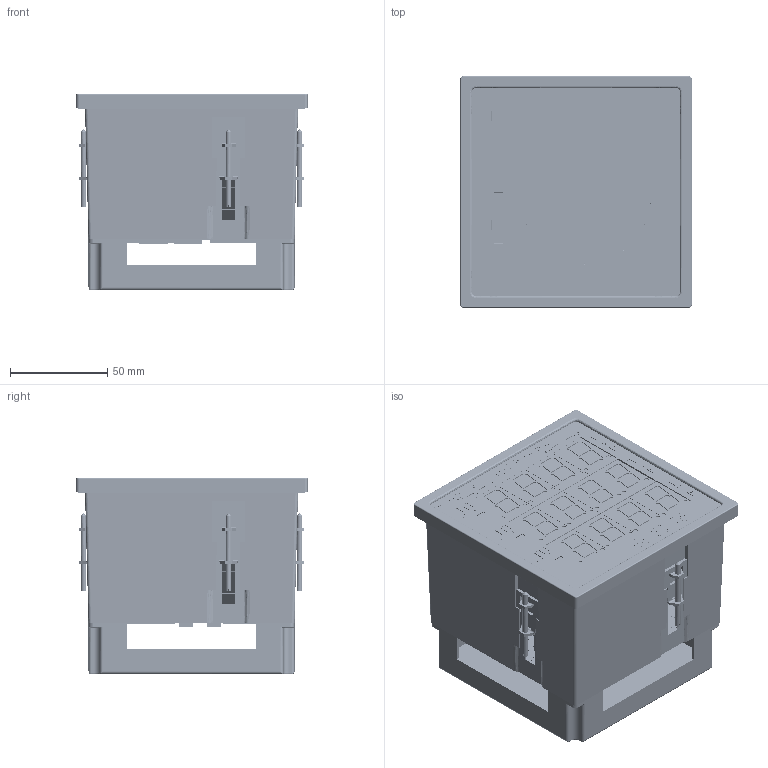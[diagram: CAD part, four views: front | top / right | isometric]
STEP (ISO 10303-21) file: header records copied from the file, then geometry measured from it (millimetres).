
FILE_DESCRIPTION (( 'STEP AP214' ), '1' );
FILE_NAME ('ñ9255tr_3n_120x120x103.STEP', '2025-01-17T09:30:29', ( '' ), ( '' ), 'SwSTEP 2.0', 'SolidWorks 2021', '' );
FILE_SCHEMA (( 'AUTOMOTIVE_DESIGN' ));
Length unit declared in the file: millimetre
Products named in the file (67): Êîïèÿ mark-FYS-8011^Êîïèÿ (2) Êîïèÿ indicator-FYS-8011_sborka-c9255tr-3n_step; 3-input-label^sborka-c9255tr-3n_step; Êîïèÿ Êîïèÿ ïåðåäíÿÿ_ïàíåëü^sborka-c9255tr-3n_step; ñêîáà-1_step; blue-led-5_step; 15EDGRC-3.5-06P; DG271R-5.0-2-x; Êîïèÿ mark-FYS-8011^Êîïèÿ (6) Êîïèÿ indicator-FYS-8011_sborka-c9255tr-3n_step; indicator-FYS-8011; Ñêîáà ÖÔ9285; Êîïèÿ mark-FYS-8011^Êîïèÿ (9) Êîïèÿ indicator-FYS-8011_sborka-c9255tr-3n_step; Êîïèÿ Êîïèÿ indicator-FYS-8011^sborka-c9255tr-3n_step; Êîïèÿ mark-FYS-8011^Êîïèÿ (10) Êîïèÿ indicator-FYS-8011_sborka-c9255tr-3n_step; Êîïèÿ mark-FYS-8011^Êîïèÿ (12) Êîïèÿ indicator-FYS-8011_sborka-c9255tr-3n_step; 櫻蠉錪2^DG271R-5.0-6-x; DG271R-body_step; Çàäíÿÿ êðûøêà ÖÔ9285; green-led-5_step; Êîïèÿ 15EDGRC-3.5-01P^15EDGRC-3.5-04P; Êîïèÿ (11) Êîïèÿ indicator-FYS-8011^sborka-c9255tr-3n_step; Êîïèÿ Ñáîðêà ñêîáà ÖÔ9285^sborka-c9255tr-3n_step; main-upper-label^sborka-c9255tr-3n_step; Êîïèÿ mark-FYS-8011^Êîïèÿ (5) Êîïèÿ indicator-FYS-8011_sborka-c9255tr-3n_step; 櫻蠉錪5^DG271R-5.0-2-x; Êîïèÿ (10) Êîïèÿ indicator-FYS-8011^sborka-c9255tr-3n_step; RS-485-label^sborka-c9255tr-3n_step; 15EDGRC-3.5-01P; Êîïèÿ orange-led-with-border^sborka-c9255tr-3n_step; ñ9255tr_3n_120x120x103; 15EDGRC-3.5-04P; Êîïèÿ (9) Êîïèÿ indicator-FYS-8011^sborka-c9255tr-3n_step; 櫻蠉錪5^DG271R-5.0-6-x_step; Êîïèÿ (4) Êîïèÿ indicator-FYS-8011^sborka-c9255tr-3n_step; Êîïèÿ mark-FYS-8011^Êîïèÿ (3) Êîïèÿ indicator-FYS-8011_sborka-c9255tr-3n_step; Êîïèÿ green-led-with-border^sborka-c9255tr-3n_step; Êîïèÿ (12) Êîïèÿ indicator-FYS-8011^sborka-c9255tr-3n_step; Êîïèÿ (3) Êîïèÿ indicator-FYS-8011^sborka-c9255tr-3n_step; DG271R-5.0-6-x_step; Êîïèÿ (8) Êîïèÿ indicator-FYS-8011^sborka-c9255tr-3n_step; 櫻蠉錪6^DG271R-5.0-2-x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
Assembly tree (122 placements, depth 3):
  Êîïèÿ mark-FYS-8011^Êîïèÿ (2) Êîïèÿ indicator-FYS-8011_sborka-c9255tr-3n_step
  Êîïèÿ mark-FYS-8011^Êîïèÿ (6) Êîïèÿ indicator-FYS-8011_sborka-c9255tr-3n_step
  Êîïèÿ mark-FYS-8011^Êîïèÿ (9) Êîïèÿ indicator-FYS-8011_sborka-c9255tr-3n_step
  Êîïèÿ mark-FYS-8011^Êîïèÿ (10) Êîïèÿ indicator-FYS-8011_sborka-c9255tr-3n_step
  Êîïèÿ mark-FYS-8011^Êîïèÿ (12) Êîïèÿ indicator-FYS-8011_sborka-c9255tr-3n_step
Bounding box: 119 x 119 x 101.11 mm (x, y, z)
Volume: 196775.9 mm3; surface area: 226512.7 mm2
Topology: 300 solids, 300 shells, 10056 faces, 25874 edges, 16708 vertices
Faces by surface type: plane 6641, cylinder 2099, bspline 1068, cone 152, sphere 84, torus 12
Entity records: 244292 total; most frequent: CARTESIAN_POINT 91417, ORIENTED_EDGE 27922, DIRECTION 21091, EDGE_CURVE 13961, LINE 9547, VECTOR 9547, VERTEX_POINT 9138, EDGE_LOOP 5837
